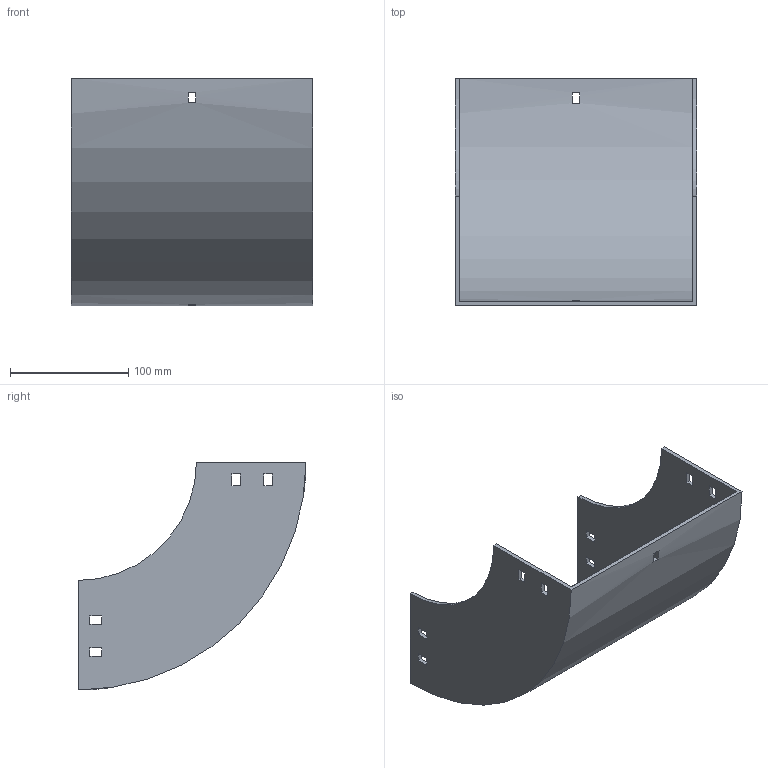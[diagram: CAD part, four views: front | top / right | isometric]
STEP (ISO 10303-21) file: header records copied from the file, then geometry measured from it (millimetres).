
FILE_DESCRIPTION (( 'STEP AP214' ), '1' );
FILE_NAME ('30B1I200.step', '2025-02-21T09:51:20', ( '' ), ( '' ), 'SwSTEP 2.0', 'SolidWorks 2023', '' );
FILE_SCHEMA (( 'AUTOMOTIVE_DESIGN' ));
Length unit declared in the file: millimetre
Products named in the file (1): 30B1I200
Bounding box: 204 x 192.5 x 192.5 mm (x, y, z)
Volume: 352972.9 mm3; surface area: 206661.5 mm2
Topology: 1 solids, 1 shells, 50 faces, 144 edges, 96 vertices
Faces by surface type: plane 46, cylinder 4
Entity records: 1687 total; most frequent: CARTESIAN_POINT 291, ORIENTED_EDGE 288, DIRECTION 262, EDGE_CURVE 144, LINE 128, VECTOR 128, VERTEX_POINT 96, EDGE_LOOP 70
